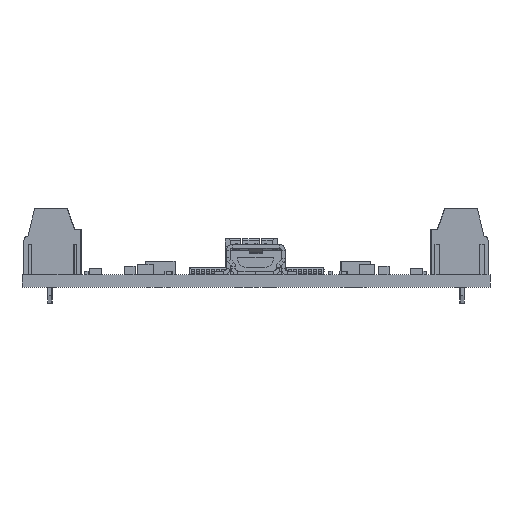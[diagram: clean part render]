
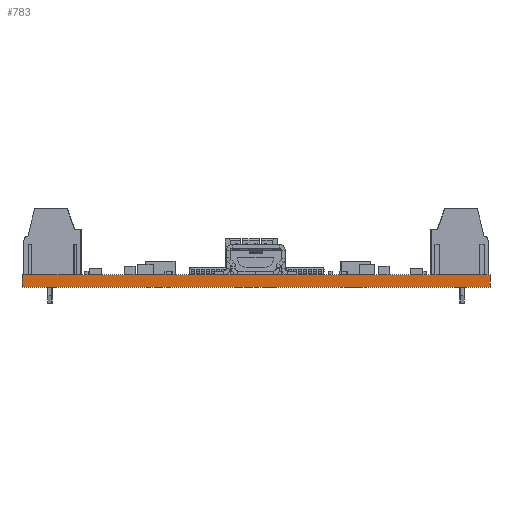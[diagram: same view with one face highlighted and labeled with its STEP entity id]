
A CAD part, front view. The second image highlights one B-rep face of the part: STEP entity #783.
In plain terms, the highlighted planar face has unit normal (0, -1, 0).
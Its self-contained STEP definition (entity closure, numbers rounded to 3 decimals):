
#758 = VERTEX_POINT('',#759);
#759 = CARTESIAN_POINT('',(60.96,0.,0.));
#765 = EDGE_CURVE('',#766,#758,#768,.T.);
#766 = VERTEX_POINT('',#767);
#767 = CARTESIAN_POINT('',(60.96,0.,-1.595));
#768 = LINE('',#769,#770);
#769 = CARTESIAN_POINT('',(60.96,0.,-1.595));
#770 = VECTOR('',#771,1.);
#771 = DIRECTION('',(0.,0.,1.));
#783 = ADVANCED_FACE('',(#784),#809,.T.);
#784 = FACE_BOUND('',#785,.T.);
#785 = EDGE_LOOP('',(#786,#787,#795,#803));
#786 = ORIENTED_EDGE('',*,*,#765,.T.);
#787 = ORIENTED_EDGE('',*,*,#788,.T.);
#788 = EDGE_CURVE('',#758,#789,#791,.T.);
#789 = VERTEX_POINT('',#790);
#790 = CARTESIAN_POINT('',(0.,0.,0.));
#791 = LINE('',#792,#793);
#792 = CARTESIAN_POINT('',(60.96,0.,0.));
#793 = VECTOR('',#794,1.);
#794 = DIRECTION('',(-1.,0.,0.));
#795 = ORIENTED_EDGE('',*,*,#796,.F.);
#796 = EDGE_CURVE('',#797,#789,#799,.T.);
#797 = VERTEX_POINT('',#798);
#798 = CARTESIAN_POINT('',(0.,0.,-1.595));
#799 = LINE('',#800,#801);
#800 = CARTESIAN_POINT('',(0.,0.,-1.595));
#801 = VECTOR('',#802,1.);
#802 = DIRECTION('',(0.,0.,1.));
#803 = ORIENTED_EDGE('',*,*,#804,.F.);
#804 = EDGE_CURVE('',#766,#797,#805,.T.);
#805 = LINE('',#806,#807);
#806 = CARTESIAN_POINT('',(60.96,0.,-1.595));
#807 = VECTOR('',#808,1.);
#808 = DIRECTION('',(-1.,0.,0.));
#809 = PLANE('',#810);
#810 = AXIS2_PLACEMENT_3D('',#811,#812,#813);
#811 = CARTESIAN_POINT('',(60.96,0.,-1.595));
#812 = DIRECTION('',(0.,-1.,0.));
#813 = DIRECTION('',(-1.,0.,0.));
